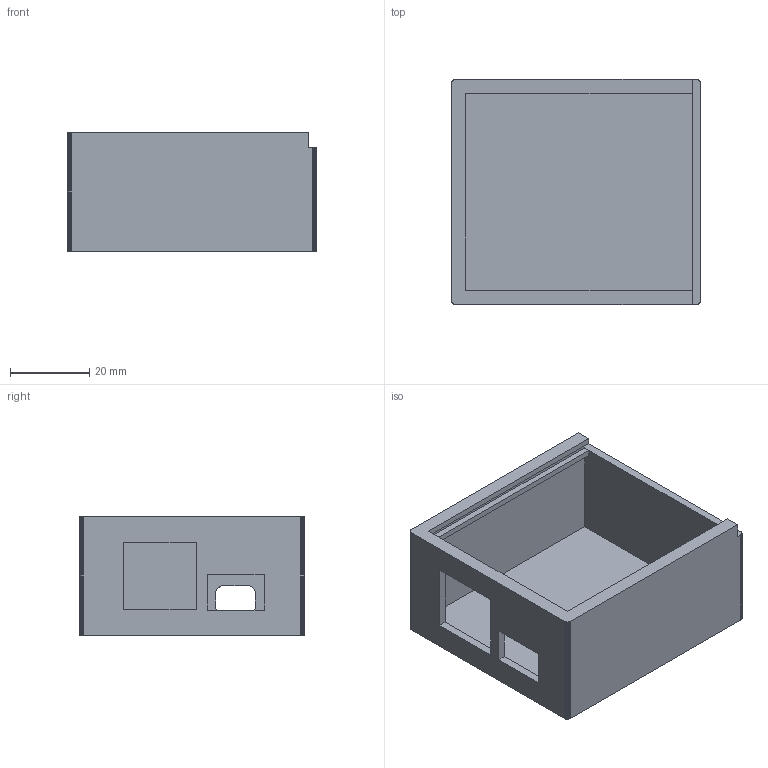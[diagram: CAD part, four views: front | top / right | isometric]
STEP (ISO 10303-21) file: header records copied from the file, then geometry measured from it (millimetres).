
FILE_DESCRIPTION(('Designed by EasyEDA Pro'),'2;1');
FILE_NAME('Open CASCADE Shape Model','2024-07-17T14:44:16',('Author'),( 'Open CASCADE'),'Open CASCADE STEP processor 7.6','Open CASCADE 7.6' ,'Unknown');
FILE_SCHEMA(('AUTOMOTIVE_DESIGN { 1 0 10303 214 1 1 1 1 }'));
Length unit declared in the file: millimetre
Products named in the file (1): Open CASCADE STEP translator 7.6 2
Bounding box: 62.83 x 56.74 x 30 mm (x, y, z)
Volume: 19407.4 mm3; surface area: 20429.3 mm2
Topology: 1 solids, 1 shells, 224 faces, 660 edges, 438 vertices
Faces by surface type: bspline 224
Entity records: 13918 total; most frequent: CARTESIAN_POINT 5295, B_SPLINE_CURVE_WITH_KNOTS 1980, ORIENTED_EDGE 1320, PCURVE 1320, DEFINITIONAL_REPRESENTATION 1320, EDGE_CURVE 660, SURFACE_CURVE 660, VERTEX_POINT 438
